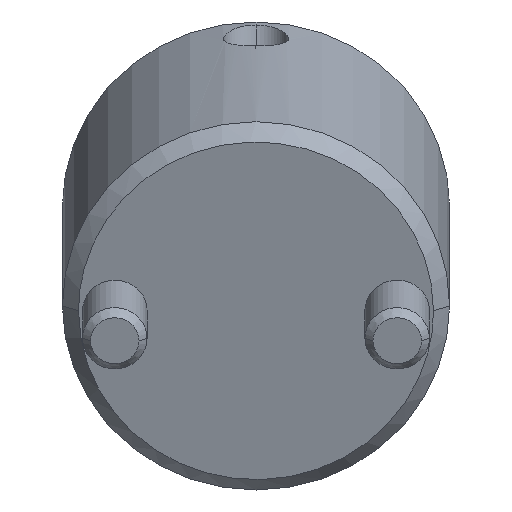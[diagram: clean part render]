
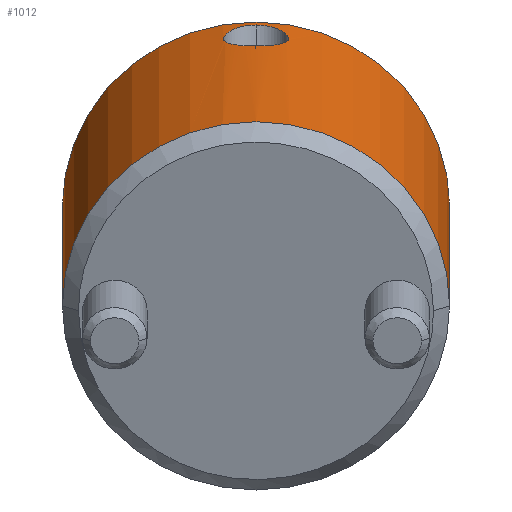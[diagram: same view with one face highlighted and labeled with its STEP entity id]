
A CAD part, front view. The second image highlights one B-rep face of the part: STEP entity #1012.
In plain terms, the highlighted cylindrical face has radius 12 mm (diameter 24 mm), a partial arc.
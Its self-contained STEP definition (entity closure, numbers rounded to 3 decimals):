
#778=CARTESIAN_POINT('Vertex',(0.,12.,1.)) ;
#781=CARTESIAN_POINT('Axis2P3D Location',(0.,0.,1.)) ;
#785=CARTESIAN_POINT('Vertex',(0.,-12.,1.)) ;
#925=CARTESIAN_POINT('Axis2P3D Location',(0.,0.,-1.1)) ;
#930=CARTESIAN_POINT('Line Origine',(0.,12.,-1.1)) ;
#934=CARTESIAN_POINT('Vertex',(0.,12.,21.)) ;
#937=CARTESIAN_POINT('Axis2P3D Location',(0.,0.,21.)) ;
#941=CARTESIAN_POINT('Vertex',(0.,-12.,21.)) ;
#944=CARTESIAN_POINT('Line Origine',(0.,-12.,-1.1)) ;
#956=CARTESIAN_POINT('Control Point',(12.,0.,20.403)) ;
#957=CARTESIAN_POINT('Control Point',(12.,0.341,20.403)) ;
#958=CARTESIAN_POINT('Control Point',(11.988,0.671,20.324)) ;
#959=CARTESIAN_POINT('Control Point',(11.964,0.986,20.166)) ;
#960=CARTESIAN_POINT('Control Point',(11.924,1.367,19.862)) ;
#961=CARTESIAN_POINT('Control Point',(11.886,1.651,19.463)) ;
#962=CARTESIAN_POINT('Control Point',(11.876,1.726,19.337)) ;
#963=CARTESIAN_POINT('Control Point',(11.856,1.854,19.075)) ;
#964=CARTESIAN_POINT('Control Point',(11.842,1.939,18.795)) ;
#965=CARTESIAN_POINT('Control Point',(11.837,1.97,18.649)) ;
#966=CARTESIAN_POINT('Control Point',(11.831,2.009,18.363)) ;
#967=CARTESIAN_POINT('Control Point',(11.832,2.,18.074)) ;
#968=CARTESIAN_POINT('Control Point',(11.835,1.984,17.931)) ;
#969=CARTESIAN_POINT('Control Point',(11.844,1.93,17.652)) ;
#970=CARTESIAN_POINT('Control Point',(11.86,1.83,17.388)) ;
#971=CARTESIAN_POINT('Control Point',(11.869,1.77,17.263)) ;
#972=CARTESIAN_POINT('Control Point',(11.89,1.629,17.023)) ;
#973=CARTESIAN_POINT('Control Point',(11.913,1.449,16.811)) ;
#974=CARTESIAN_POINT('Control Point',(11.924,1.351,16.714)) ;
#975=CARTESIAN_POINT('Control Point',(11.956,1.059,16.473)) ;
#976=CARTESIAN_POINT('Control Point',(11.982,0.714,16.305)) ;
#977=CARTESIAN_POINT('Control Point',(11.994,0.482,16.233)) ;
#978=CARTESIAN_POINT('Control Point',(12.,0.243,16.197)) ;
#979=CARTESIAN_POINT('Control Point',(12.,0.,16.197)) ;
#980=CARTESIAN_POINT('Vertex',(12.,0.,20.403)) ;
#982=CARTESIAN_POINT('Vertex',(12.,0.,16.197)) ;
#986=CARTESIAN_POINT('Control Point',(12.,0.,16.197)) ;
#987=CARTESIAN_POINT('Control Point',(12.,-0.277,16.197)) ;
#988=CARTESIAN_POINT('Control Point',(11.992,-0.549,16.243)) ;
#989=CARTESIAN_POINT('Control Point',(11.976,-0.815,16.339)) ;
#990=CARTESIAN_POINT('Control Point',(11.945,-1.178,16.546)) ;
#991=CARTESIAN_POINT('Control Point',(11.91,-1.473,16.837)) ;
#992=CARTESIAN_POINT('Control Point',(11.898,-1.562,16.941)) ;
#993=CARTESIAN_POINT('Control Point',(11.865,-1.806,17.285)) ;
#994=CARTESIAN_POINT('Control Point',(11.84,-1.957,17.684)) ;
#995=CARTESIAN_POINT('Control Point',(11.83,-2.011,17.97)) ;
#996=CARTESIAN_POINT('Control Point',(11.829,-2.022,18.405)) ;
#997=CARTESIAN_POINT('Control Point',(11.844,-1.93,18.83)) ;
#998=CARTESIAN_POINT('Control Point',(11.851,-1.887,18.97)) ;
#999=CARTESIAN_POINT('Control Point',(11.868,-1.78,19.243)) ;
#1000=CARTESIAN_POINT('Control Point',(11.889,-1.63,19.494)) ;
#1001=CARTESIAN_POINT('Control Point',(11.901,-1.545,19.614)) ;
#1002=CARTESIAN_POINT('Control Point',(11.937,-1.255,19.958)) ;
#1003=CARTESIAN_POINT('Control Point',(11.972,-0.885,20.214)) ;
#1004=CARTESIAN_POINT('Control Point',(11.99,-0.603,20.339)) ;
#1005=CARTESIAN_POINT('Control Point',(12.,-0.306,20.403)) ;
#1006=CARTESIAN_POINT('Control Point',(12.,0.,20.403)) ;
#782=DIRECTION('Axis2P3D Direction',(0.,0.,1.)) ;
#926=DIRECTION('Axis2P3D Direction',(0.,-0.,1.)) ;
#927=DIRECTION('Axis2P3D XDirection',(0.,-1.,0.)) ;
#931=DIRECTION('Vector Direction',(0.,0.,1.)) ;
#938=DIRECTION('Axis2P3D Direction',(0.,-0.,1.)) ;
#945=DIRECTION('Vector Direction',(0.,0.,1.)) ;
#783=AXIS2_PLACEMENT_3D('Circle Axis2P3D',#781,#782,$) ;
#928=AXIS2_PLACEMENT_3D('Cylinder Axis2P3D',#925,#926,#927) ;
#939=AXIS2_PLACEMENT_3D('Circle Axis2P3D',#937,#938,$) ;
#950=ORIENTED_EDGE('',*,*,#936,.F.) ;
#951=ORIENTED_EDGE('',*,*,#943,.T.) ;
#952=ORIENTED_EDGE('',*,*,#948,.T.) ;
#953=ORIENTED_EDGE('',*,*,#787,.F.) ;
#1009=ORIENTED_EDGE('',*,*,#984,.T.) ;
#1010=ORIENTED_EDGE('',*,*,#1007,.T.) ;
#1011=FACE_BOUND('',#1008,.T.) ;
#932=VECTOR('Line Direction',#931,1.) ;
#946=VECTOR('Line Direction',#945,1.) ;
#1012=ADVANCED_FACE('MANIFOLD_SOLID_BREP #1097',(#954,#1011),#929,.T.) ;
#955=B_SPLINE_CURVE_WITH_KNOTS('',5,(#956,#957,#958,#959,#960,#961,#962,#963,#964,#965,#966,#967,#968,#969,#970,#971,#972,#973,#974,#975,#976,#977,#978,#979),.UNSPECIFIED.,.F.,.U.,(6,3,3,3,3,3,3,6),(0.,2.411,3.437,4.458,5.457,6.442,7.421,9.138),.UNSPECIFIED.) ;
#985=B_SPLINE_CURVE_WITH_KNOTS('',5,(#986,#987,#988,#989,#990,#991,#992,#993,#994,#995,#996,#997,#998,#999,#1000,#1001,#1002,#1003,#1004,#1005,#1006),.UNSPECIFIED.,.F.,.U.,(6,3,3,3,3,3,6),(0.,1.96,2.94,4.935,5.963,6.984,9.144),.UNSPECIFIED.) ;
#784=CIRCLE('generated circle',#783,12.) ;
#940=CIRCLE('generated circle',#939,12.) ;
#929=CYLINDRICAL_SURFACE('generated cylinder',#928,12.) ;
#787=EDGE_CURVE('',#779,#786,#784,.F.) ;
#936=EDGE_CURVE('',#935,#779,#933,.F.) ;
#943=EDGE_CURVE('',#935,#942,#940,.F.) ;
#948=EDGE_CURVE('',#942,#786,#947,.F.) ;
#984=EDGE_CURVE('',#981,#983,#955,.T.) ;
#1007=EDGE_CURVE('',#983,#981,#985,.T.) ;
#949=EDGE_LOOP('',(#950,#951,#952,#953)) ;
#1008=EDGE_LOOP('',(#1009,#1010)) ;
#954=FACE_OUTER_BOUND('',#949,.T.) ;
#933=LINE('Line',#930,#932) ;
#947=LINE('Line',#944,#946) ;
#779=VERTEX_POINT('',#778) ;
#786=VERTEX_POINT('',#785) ;
#935=VERTEX_POINT('',#934) ;
#942=VERTEX_POINT('',#941) ;
#981=VERTEX_POINT('',#980) ;
#983=VERTEX_POINT('',#982) ;
